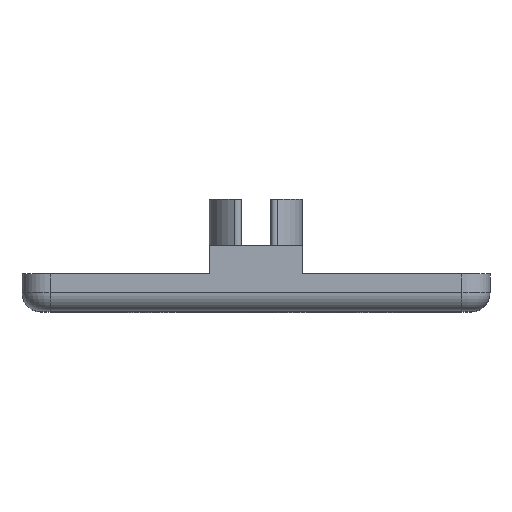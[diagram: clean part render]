
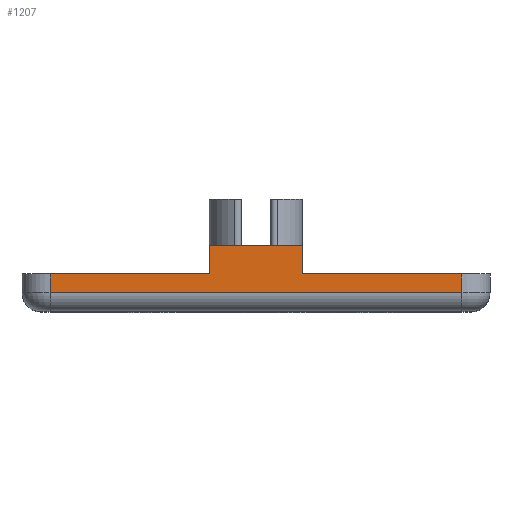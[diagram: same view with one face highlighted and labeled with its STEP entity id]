
A CAD part, top view. The second image highlights one B-rep face of the part: STEP entity #1207.
In plain terms, the highlighted planar face has unit normal (0, 0, 1).
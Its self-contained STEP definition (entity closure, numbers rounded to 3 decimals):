
#104 = LINE ( 'NONE', #1946, #6345 ) ;
#143 = DIRECTION ( 'NONE',  ( -1., 0., 0. ) ) ;
#235 = ORIENTED_EDGE ( 'NONE', *, *, #360, .T. ) ;
#360 = EDGE_CURVE ( 'NONE', #1356, #1308, #7187, .T. ) ;
#395 = DIRECTION ( 'NONE',  ( 1., 0., 0. ) ) ;
#654 = DIRECTION ( 'NONE',  ( 1., 0., 0. ) ) ;
#714 = ORIENTED_EDGE ( 'NONE', *, *, #6427, .T. ) ;
#815 = VERTEX_POINT ( 'NONE', #4759 ) ;
#960 = LINE ( 'NONE', #3676, #7174 ) ;
#962 = LINE ( 'NONE', #6417, #4177 ) ;
#1207 = ADVANCED_FACE ( 'NONE', ( #1663 ), #4407, .F. ) ;
#1223 = CARTESIAN_POINT ( 'NONE',  ( 5., 7., 25. ) ) ;
#1308 = VERTEX_POINT ( 'NONE', #4778 ) ;
#1356 = VERTEX_POINT ( 'NONE', #1451 ) ;
#1451 = CARTESIAN_POINT ( 'NONE',  ( -22., 4., 25. ) ) ;
#1570 = CARTESIAN_POINT ( 'NONE',  ( -22., 4., 25. ) ) ;
#1601 = CARTESIAN_POINT ( 'NONE',  ( -22., 4., 25. ) ) ;
#1655 = CARTESIAN_POINT ( 'NONE',  ( -5., 7., 25. ) ) ;
#1663 = FACE_OUTER_BOUND ( 'NONE', #4264, .T. ) ;
#1946 = CARTESIAN_POINT ( 'NONE',  ( -22., 4., 25. ) ) ;
#1956 = VERTEX_POINT ( 'NONE', #7266 ) ;
#1978 = VECTOR ( 'NONE', #2792, 1000. ) ;
#2422 = VERTEX_POINT ( 'NONE', #1223 ) ;
#2437 = VERTEX_POINT ( 'NONE', #6677 ) ;
#2783 = VECTOR ( 'NONE', #4866, 1000. ) ;
#2792 = DIRECTION ( 'NONE',  ( 0., -1., 0. ) ) ;
#2967 = ORIENTED_EDGE ( 'NONE', *, *, #6341, .F. ) ;
#3072 = VERTEX_POINT ( 'NONE', #3434 ) ;
#3257 = EDGE_CURVE ( 'NONE', #2422, #2437, #960, .T. ) ;
#3434 = CARTESIAN_POINT ( 'NONE',  ( 22., 4., 25. ) ) ;
#3670 = CARTESIAN_POINT ( 'NONE',  ( -5., 7., 25. ) ) ;
#3676 = CARTESIAN_POINT ( 'NONE',  ( 5., 7., 25. ) ) ;
#3744 = CARTESIAN_POINT ( 'NONE',  ( -22., 4., 25. ) ) ;
#3802 = DIRECTION ( 'NONE',  ( 1., 0., 0. ) ) ;
#4052 = EDGE_CURVE ( 'NONE', #1356, #815, #4348, .T. ) ;
#4138 = DIRECTION ( 'NONE',  ( 0., 0., -1. ) ) ;
#4177 = VECTOR ( 'NONE', #7601, 1000. ) ;
#4256 = CARTESIAN_POINT ( 'NONE',  ( 22., 4., 25. ) ) ;
#4264 = EDGE_LOOP ( 'NONE', ( #235, #5375, #7751, #2967, #6316, #5674, #714, #7605 ) ) ;
#4315 = AXIS2_PLACEMENT_3D ( 'NONE', #3744, #4138, #143 ) ;
#4348 = LINE ( 'NONE', #1601, #5747 ) ;
#4407 = PLANE ( 'NONE',  #4315 ) ;
#4759 = CARTESIAN_POINT ( 'NONE',  ( -5., 4., 25. ) ) ;
#4778 = CARTESIAN_POINT ( 'NONE',  ( -22., 2., 25. ) ) ;
#4866 = DIRECTION ( 'NONE',  ( 0., -1., 0. ) ) ;
#5375 = ORIENTED_EDGE ( 'NONE', *, *, #6404, .T. ) ;
#5674 = ORIENTED_EDGE ( 'NONE', *, *, #6149, .F. ) ;
#5747 = VECTOR ( 'NONE', #395, 1000. ) ;
#5789 = VECTOR ( 'NONE', #6464, 1000. ) ;
#5790 = VECTOR ( 'NONE', #654, 1000. ) ;
#5897 = VERTEX_POINT ( 'NONE', #6758 ) ;
#6149 = EDGE_CURVE ( 'NONE', #5897, #2422, #6178, .T. ) ;
#6160 = DIRECTION ( 'NONE',  ( 0., -1., 0. ) ) ;
#6178 = LINE ( 'NONE', #3670, #5790 ) ;
#6204 = LINE ( 'NONE', #4256, #2783 ) ;
#6316 = ORIENTED_EDGE ( 'NONE', *, *, #3257, .F. ) ;
#6341 = EDGE_CURVE ( 'NONE', #2437, #3072, #104, .T. ) ;
#6345 = VECTOR ( 'NONE', #3802, 1000. ) ;
#6404 = EDGE_CURVE ( 'NONE', #1308, #1956, #962, .T. ) ;
#6417 = CARTESIAN_POINT ( 'NONE',  ( -22., 2., 25. ) ) ;
#6427 = EDGE_CURVE ( 'NONE', #5897, #815, #6609, .T. ) ;
#6464 = DIRECTION ( 'NONE',  ( 0., -1., 0. ) ) ;
#6609 = LINE ( 'NONE', #1655, #1978 ) ;
#6677 = CARTESIAN_POINT ( 'NONE',  ( 5., 4., 25. ) ) ;
#6758 = CARTESIAN_POINT ( 'NONE',  ( -5., 7., 25. ) ) ;
#7174 = VECTOR ( 'NONE', #6160, 1000. ) ;
#7187 = LINE ( 'NONE', #1570, #5789 ) ;
#7266 = CARTESIAN_POINT ( 'NONE',  ( 22., 2., 25. ) ) ;
#7384 = EDGE_CURVE ( 'NONE', #3072, #1956, #6204, .T. ) ;
#7601 = DIRECTION ( 'NONE',  ( 1., 0., 0. ) ) ;
#7605 = ORIENTED_EDGE ( 'NONE', *, *, #4052, .F. ) ;
#7751 = ORIENTED_EDGE ( 'NONE', *, *, #7384, .F. ) ;
